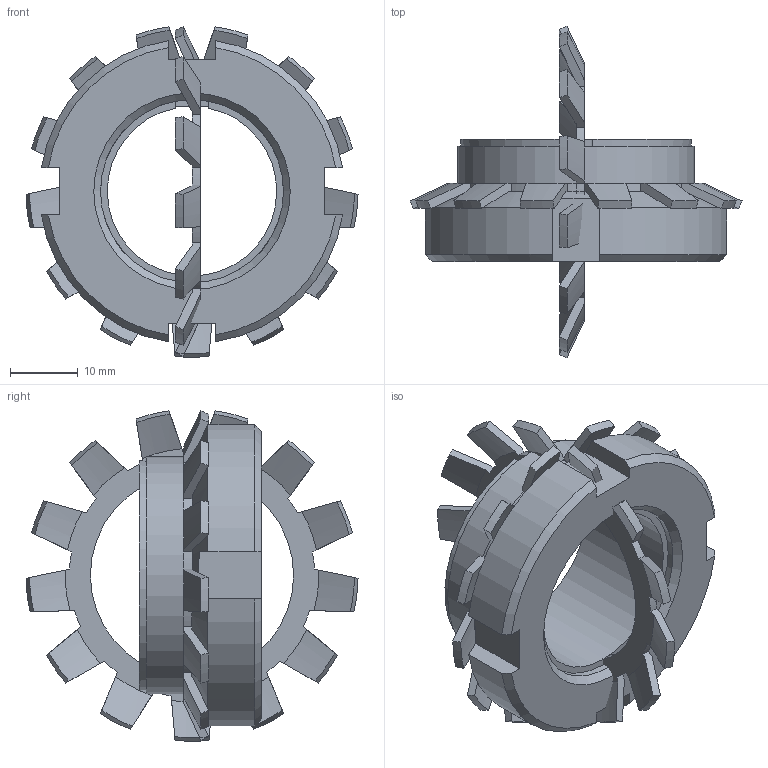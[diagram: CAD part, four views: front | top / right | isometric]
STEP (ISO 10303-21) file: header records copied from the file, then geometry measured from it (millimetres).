
FILE_DESCRIPTION( ( 'Unknown' ), '1' );
FILE_NAME( 'C:/Dokumente und Einstellungen/Sven/Desktop/homepage/cad - homepage/KBS51/KBS 51 - 25 x 35.stp', 'Unknown', ( 'Unknown' ), ( 'Unknown' ), 'XStep 1.0', 'Unknown', ' ' );
FILE_SCHEMA( ( 'automotive_design' ) );
Length unit declared in the file: millimetre
Products named in the file (3): Assem1; KBS 51 - 25 x 35; 08570066_locking_plate_din_5406_mb_6_2_14a
Bounding box: 48.99 x 48.99 x 48.75 mm (x, y, z)
Volume: 27721.3 mm3; surface area: 15636 mm2
Topology: 4 solids, 4 shells, 240 faces, 688 edges, 456 vertices
Faces by surface type: plane 104, cone 94, cylinder 42
Full cylindrical faces by diameter (mm): 27 x2, 35 x2
Entity records: 4268 total; most frequent: CARTESIAN_POINT 879, ORIENTED_EDGE 676, DIRECTION 640, EDGE_CURVE 338, AXIS2_PLACEMENT_3D 253, VERTEX_POINT 226, LINE 134, VECTOR 134
